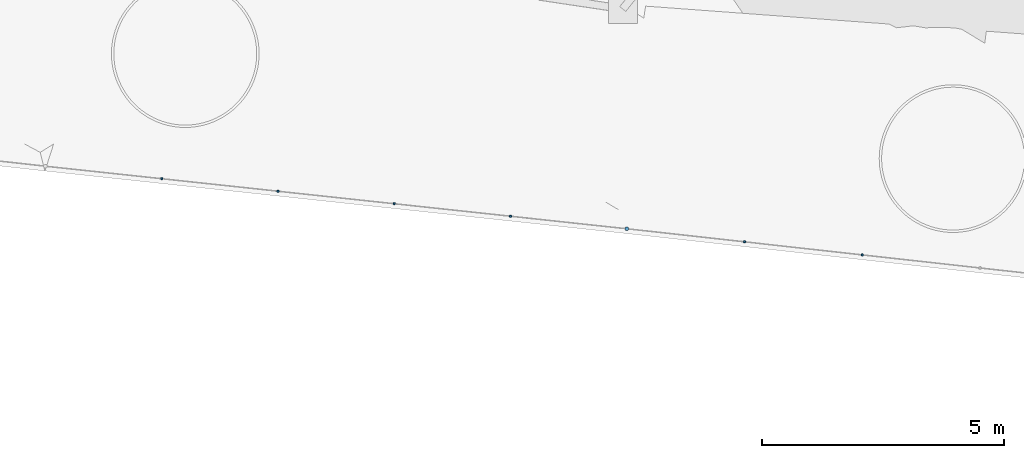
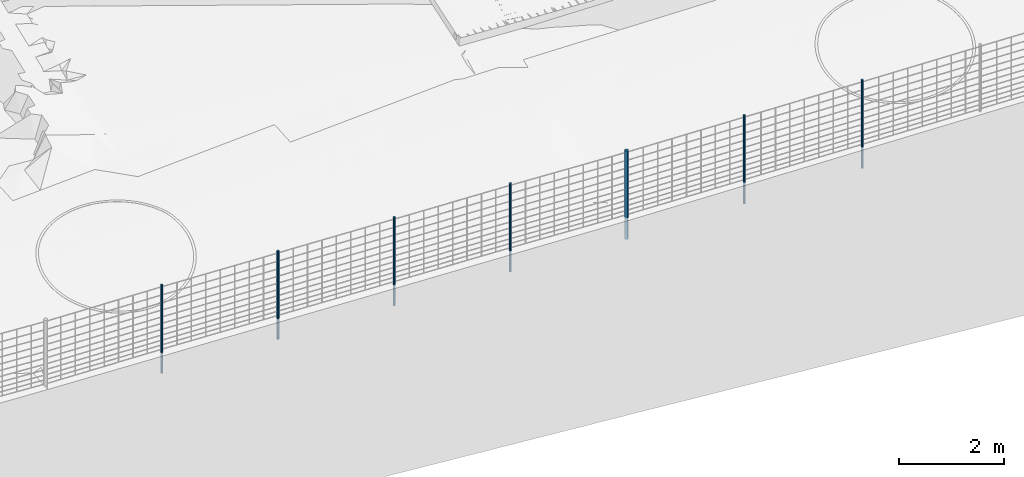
# Not in any storey, part 7 of 72: 7 members.
"""IFC4 model written with IfcOpenShell, lengths in metres."""

from ifc_helpers import new_model, si_unit, direction, frame, origin_with_axes, place, context, subcontext, project, spatial, circle, extrude, material, material_profile, profile_set, profile_usage, type_object, element, save


model = new_model("IFC4")

# Units and contexts
model_context = context("Model", 3, precision=1e-05, world=origin_with_axes(), true_north=direction((0.0, 1.0)))
body_context = subcontext(model_context, "Body", "Model", "MODEL_VIEW")
ifc_project = project(units=[si_unit("AREAUNIT", "SQUARE_METRE"), si_unit("VOLUMEUNIT", "CUBIC_METRE"), si_unit("LENGTHUNIT", "METRE")], contexts=[model_context])

# Site
site_placement = place(None, origin_with_axes())
site = spatial("IfcSite", under=ifc_project, at=site_placement, Name="Lares · Rua das Mercês · artigo 4771")

# Members
ifc_material = material(Name="Aço galvanizado / Stahl verzinkt", Category="steel")
ifc_material_profile_1 = material_profile(ifc_material, circle(Radius=0.038))
ifc_profile_set_1 = profile_set([ifc_material_profile_1], Name="D0.076")
ifc_profile_usage_1 = profile_usage(ifc_profile_set_1)
member_type_1 = type_object("IfcMemberType", Name="D0.076 / galvanized", PredefinedType="NOTDEFINED", material=ifc_profile_set_1)
member_1_placement = place(site_placement, frame((47.1290663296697, -2.30889199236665, 13.0309563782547), z_axis=(0.0, 0.0, 1.0), x_axis=(1.0, -1.03767253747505e-17, 0.0)))
element("IfcMember", 1, at=member_1_placement, inside=site, type_object=member_type_1, material=ifc_profile_usage_1, Name="Vedação · poste de canto/topo", PredefinedType="POST", context=body_context, shape_type="SweptSolid", body=[
    extrude(circle(Radius=0.038), origin_with_axes(), (0.0, 0.0, 1.0), 2.05),
])
ifc_material_profile_2 = material_profile(ifc_material, circle(Radius=0.024))
ifc_profile_set_2 = profile_set([ifc_material_profile_2], Name="D0.048")
ifc_profile_usage_2 = profile_usage(ifc_profile_set_2)
member_type_2 = type_object("IfcMemberType", Name="D0.048 / galvanized", PredefinedType="NOTDEFINED", material=ifc_profile_set_2)
member_2_placement = place(site_placement, frame((51.9909864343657, -2.84874532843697, 13.2910060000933), z_axis=(0.0, 0.0, 1.0), x_axis=(1.0, -1.03767253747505e-17, 0.0)))
element("IfcMember", 2, at=member_2_placement, inside=site, type_object=member_type_2, material=ifc_profile_usage_2, Name="Vedação · poste intermédio", PredefinedType="POST", context=body_context, shape_type="SweptSolid", body=[
    extrude(circle(Radius=0.024), origin_with_axes(), (0.0, 0.0, 1.0), 2.05),
])
ifc_profile_usage_3 = profile_usage(ifc_profile_set_2)
member_3_placement = place(site_placement, frame((49.5600263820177, -2.57881866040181, 13.1584844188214), z_axis=(0.0, 0.0, 1.0), x_axis=(1.0, -1.03767253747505e-17, 0.0)))
element("IfcMember", 3, at=member_3_placement, inside=site, type_object=member_type_2, material=ifc_profile_usage_3, Name="Vedação · poste intermédio", PredefinedType="POST", context=body_context, shape_type="SweptSolid", body=[
    extrude(circle(Radius=0.024), origin_with_axes(), (0.0, 0.0, 1.0), 2.05),
])
ifc_profile_usage_4 = profile_usage(ifc_profile_set_2)
member_4_placement = place(site_placement, frame((44.7283507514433, -2.05061246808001, 12.9482490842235), z_axis=(0.0, 0.0, 1.0), x_axis=(1.0, -1.03767253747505e-17, 0.0)))
element("IfcMember", 4, at=member_4_placement, inside=site, type_object=member_type_2, material=ifc_profile_usage_4, Name="Vedação · poste intermédio", PredefinedType="POST", context=body_context, shape_type="SweptSolid", body=[
    extrude(circle(Radius=0.024), origin_with_axes(), (0.0, 0.0, 1.0), 2.05),
])
ifc_profile_usage_5 = profile_usage(ifc_profile_set_2)
member_5_placement = place(site_placement, frame((42.3276351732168, -1.79233294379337, 12.8475692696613), z_axis=(0.0, 0.0, 1.0), x_axis=(1.0, -1.03767253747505e-17, 0.0)))
element("IfcMember", 5, at=member_5_placement, inside=site, type_object=member_type_2, material=ifc_profile_usage_5, Name="Vedação · poste intermédio", PredefinedType="POST", context=body_context, shape_type="SweptSolid", body=[
    extrude(circle(Radius=0.024), origin_with_axes(), (0.0, 0.0, 1.0), 2.05),
])
ifc_profile_usage_6 = profile_usage(ifc_profile_set_2)
member_6_placement = place(site_placement, frame((39.9269195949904, -1.53405341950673, 12.746889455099), z_axis=(0.0, 0.0, 1.0), x_axis=(1.0, -1.03767253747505e-17, 0.0)))
element("IfcMember", 6, at=member_6_placement, inside=site, type_object=member_type_2, material=ifc_profile_usage_6, Name="Vedação · poste intermédio", PredefinedType="POST", context=body_context, shape_type="SweptSolid", body=[
    extrude(circle(Radius=0.024), origin_with_axes(), (0.0, 0.0, 1.0), 2.05),
])
ifc_profile_usage_7 = profile_usage(ifc_profile_set_2)
member_7_placement = place(site_placement, frame((37.526204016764, -1.2757738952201, 12.6456325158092), z_axis=(0.0, 0.0, 1.0), x_axis=(1.0, -1.03767253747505e-17, 0.0)))
element("IfcMember", 7, at=member_7_placement, inside=site, type_object=member_type_2, material=ifc_profile_usage_7, Name="Vedação · poste intermédio", PredefinedType="POST", context=body_context, shape_type="SweptSolid", body=[
    extrude(circle(Radius=0.024), origin_with_axes(), (0.0, 0.0, 1.0), 2.05),
])

save(model, "model.ifc")
